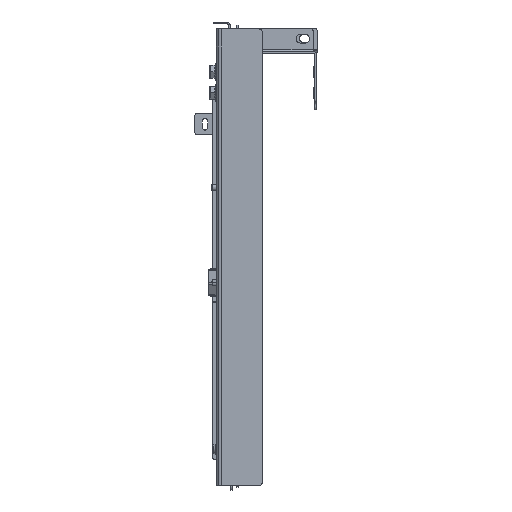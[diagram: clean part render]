
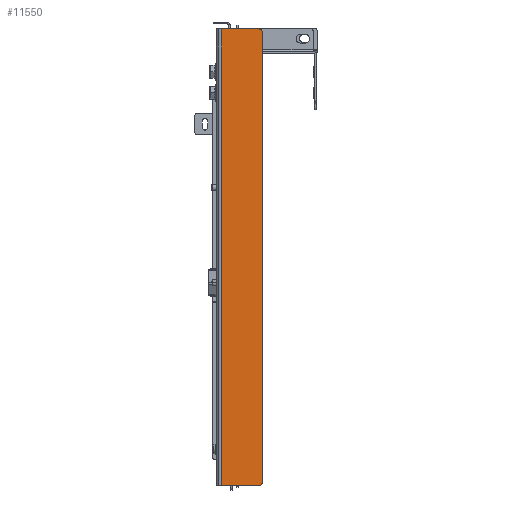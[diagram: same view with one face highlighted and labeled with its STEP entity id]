
A CAD part, front view. The second image highlights one B-rep face of the part: STEP entity #11550.
In plain terms, the highlighted planar face has unit normal (0, -1, 0).
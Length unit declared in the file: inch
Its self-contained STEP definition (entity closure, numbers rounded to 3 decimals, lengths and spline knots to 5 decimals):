
#481 = CARTESIAN_POINT ( 'NONE',  ( -8.625, -0.097, -0.875 ) ) ;
#1971 = CARTESIAN_POINT ( 'NONE',  ( -8.75, -0.097, 0.698 ) ) ;
#2607 = VECTOR ( 'NONE', #19702, 39.37008 ) ;
#4403 = DIRECTION ( 'NONE',  ( 0., -1., 0. ) ) ;
#4713 = CARTESIAN_POINT ( 'NONE',  ( 8.75, -0.097, 0.875 ) ) ;
#6046 = PLANE ( 'NONE',  #40150 ) ;
#7065 = DIRECTION ( 'NONE',  ( -1., 0., 0. ) ) ;
#8728 = CARTESIAN_POINT ( 'NONE',  ( -8.75, -0.097, 0.875 ) ) ;
#8765 = DIRECTION ( 'NONE',  ( 0., 0., -1. ) ) ;
#9258 = LINE ( 'NONE', #8728, #29428 ) ;
#10080 = DIRECTION ( 'NONE',  ( 0., -1., 0. ) ) ;
#10992 = CARTESIAN_POINT ( 'NONE',  ( 8.75, -0.097, 0.698 ) ) ;
#11550 = ADVANCED_FACE ( 'NONE', ( #51522 ), #6046, .T. ) ;
#12732 = DIRECTION ( 'NONE',  ( 0., 0., 1. ) ) ;
#14317 = CARTESIAN_POINT ( 'NONE',  ( -8.75, -0.097, -0.75 ) ) ;
#15654 = DIRECTION ( 'NONE',  ( 0., -1., 0. ) ) ;
#16014 = ORIENTED_EDGE ( 'NONE', *, *, #32272, .T. ) ;
#19266 = VERTEX_POINT ( 'NONE', #14317 ) ;
#19368 = VERTEX_POINT ( 'NONE', #10992 ) ;
#19702 = DIRECTION ( 'NONE',  ( -1., 0., 0. ) ) ;
#19794 = CARTESIAN_POINT ( 'NONE',  ( 8.75, -0.097, -0.75 ) ) ;
#23982 = LINE ( 'NONE', #4713, #44276 ) ;
#24318 = EDGE_CURVE ( 'NONE', #19266, #24491, #9258, .T. ) ;
#24491 = VERTEX_POINT ( 'NONE', #1971 ) ;
#27536 = CARTESIAN_POINT ( 'NONE',  ( 8.625, -0.097, -0.875 ) ) ;
#28514 = CARTESIAN_POINT ( 'NONE',  ( -8.625, -0.097, -0.75 ) ) ;
#28940 = VERTEX_POINT ( 'NONE', #481 ) ;
#29428 = VECTOR ( 'NONE', #12732, 39.37008 ) ;
#30168 = CARTESIAN_POINT ( 'NONE',  ( 0., -0.097, 0. ) ) ;
#31898 = EDGE_LOOP ( 'NONE', ( #37392, #16014, #34412, #42175, #44419, #46854 ) ) ;
#32272 = EDGE_CURVE ( 'NONE', #38961, #51445, #33152, .T. ) ;
#32625 = DIRECTION ( 'NONE',  ( 0., 0., -1. ) ) ;
#33152 = CIRCLE ( 'NONE', #49814, 0.125 ) ;
#33459 = LINE ( 'NONE', #35302, #51243 ) ;
#34088 = CIRCLE ( 'NONE', #45242, 0.125 ) ;
#34412 = ORIENTED_EDGE ( 'NONE', *, *, #45822, .F. ) ;
#34829 = LINE ( 'NONE', #39852, #2607 ) ;
#35302 = CARTESIAN_POINT ( 'NONE',  ( 8.75, -0.097, 0.698 ) ) ;
#36038 = EDGE_CURVE ( 'NONE', #19368, #24491, #33459, .T. ) ;
#37392 = ORIENTED_EDGE ( 'NONE', *, *, #50708, .F. ) ;
#38327 = DIRECTION ( 'NONE',  ( 0., 0., -1. ) ) ;
#38961 = VERTEX_POINT ( 'NONE', #27536 ) ;
#39852 = CARTESIAN_POINT ( 'NONE',  ( -8.75, -0.097, -0.875 ) ) ;
#39876 = CARTESIAN_POINT ( 'NONE',  ( 8.625, -0.097, -0.75 ) ) ;
#40150 = AXIS2_PLACEMENT_3D ( 'NONE', #30168, #10080, #38327 ) ;
#42175 = ORIENTED_EDGE ( 'NONE', *, *, #36038, .T. ) ;
#44005 = DIRECTION ( 'NONE',  ( 0., 0., -1. ) ) ;
#44276 = VECTOR ( 'NONE', #8765, 39.37008 ) ;
#44419 = ORIENTED_EDGE ( 'NONE', *, *, #24318, .F. ) ;
#45242 = AXIS2_PLACEMENT_3D ( 'NONE', #28514, #4403, #32625 ) ;
#45822 = EDGE_CURVE ( 'NONE', #19368, #51445, #23982, .T. ) ;
#46854 = ORIENTED_EDGE ( 'NONE', *, *, #52157, .T. ) ;
#49814 = AXIS2_PLACEMENT_3D ( 'NONE', #39876, #15654, #44005 ) ;
#50708 = EDGE_CURVE ( 'NONE', #38961, #28940, #34829, .T. ) ;
#51243 = VECTOR ( 'NONE', #7065, 39.37008 ) ;
#51445 = VERTEX_POINT ( 'NONE', #19794 ) ;
#51522 = FACE_OUTER_BOUND ( 'NONE', #31898, .T. ) ;
#52157 = EDGE_CURVE ( 'NONE', #19266, #28940, #34088, .T. ) ;
